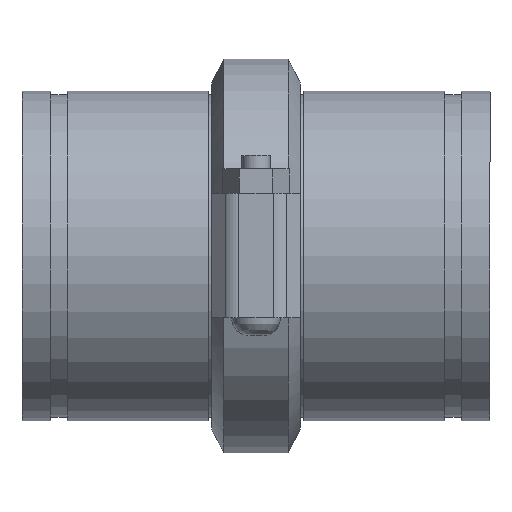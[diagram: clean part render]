
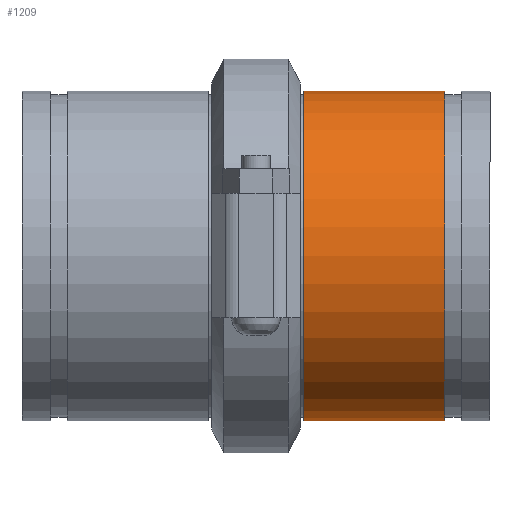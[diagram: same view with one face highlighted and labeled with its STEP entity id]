
A CAD part, top view. The second image highlights one B-rep face of the part: STEP entity #1209.
In plain terms, the highlighted cylindrical face has radius 109.537 mm (diameter 219.075 mm), a full revolution.
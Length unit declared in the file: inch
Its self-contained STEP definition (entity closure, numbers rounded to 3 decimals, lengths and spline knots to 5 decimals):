
#48=LINE('',#1920,#135);
#135=VECTOR('',#1561,4.3125);
#222=CYLINDRICAL_SURFACE('',#1386,4.3125);
#267=FACE_OUTER_BOUND('',#340,.T.);
#340=EDGE_LOOP('',(#797,#798,#799,#800,#801,#802));
#432=CIRCLE('',#1384,4.3125);
#433=CIRCLE('',#1385,4.3125);
#434=CIRCLE('',#1387,4.3125);
#435=CIRCLE('',#1388,4.3125);
#500=VERTEX_POINT('',#1911);
#501=VERTEX_POINT('',#1912);
#502=VERTEX_POINT('',#1916);
#503=VERTEX_POINT('',#1917);
#617=EDGE_CURVE('',#500,#501,#432,.T.);
#618=EDGE_CURVE('',#501,#500,#433,.T.);
#619=EDGE_CURVE('',#502,#503,#434,.T.);
#620=EDGE_CURVE('',#503,#502,#435,.T.);
#621=EDGE_CURVE('',#503,#501,#48,.T.);
#797=ORIENTED_EDGE('',*,*,#619,.F.);
#798=ORIENTED_EDGE('',*,*,#620,.F.);
#799=ORIENTED_EDGE('',*,*,#621,.T.);
#800=ORIENTED_EDGE('',*,*,#618,.T.);
#801=ORIENTED_EDGE('',*,*,#617,.T.);
#802=ORIENTED_EDGE('',*,*,#621,.F.);
#1209=ADVANCED_FACE('',(#267),#222,.T.);
#1384=AXIS2_PLACEMENT_3D('',#1913,#1551,#1552);
#1385=AXIS2_PLACEMENT_3D('',#1914,#1553,#1554);
#1386=AXIS2_PLACEMENT_3D('',#1915,#1555,#1556);
#1387=AXIS2_PLACEMENT_3D('',#1918,#1557,#1558);
#1388=AXIS2_PLACEMENT_3D('',#1919,#1559,#1560);
#1551=DIRECTION('center_axis',(-1.,0.,0.));
#1552=DIRECTION('ref_axis',(0.,0.,1.));
#1553=DIRECTION('center_axis',(-1.,0.,0.));
#1554=DIRECTION('ref_axis',(0.,0.,1.));
#1555=DIRECTION('center_axis',(-1.,0.,0.));
#1556=DIRECTION('ref_axis',(0.,1.,0.));
#1557=DIRECTION('center_axis',(-1.,0.,0.));
#1558=DIRECTION('ref_axis',(0.,0.,1.));
#1559=DIRECTION('center_axis',(-1.,0.,0.));
#1560=DIRECTION('ref_axis',(0.,0.,1.));
#1561=DIRECTION('',(1.,0.,0.));
#1911=CARTESIAN_POINT('',(1.842,4.3125,0.));
#1912=CARTESIAN_POINT('',(1.842,-4.3125,0.));
#1913=CARTESIAN_POINT('Origin',(1.842,0.,0.));
#1914=CARTESIAN_POINT('Origin',(1.842,0.,0.));
#1915=CARTESIAN_POINT('Origin',(0.,0.,
0.));
#1916=CARTESIAN_POINT('',(-1.842,4.3125,0.));
#1917=CARTESIAN_POINT('',(-1.842,-4.3125,0.));
#1918=CARTESIAN_POINT('Origin',(-1.842,0.,0.));
#1919=CARTESIAN_POINT('Origin',(-1.842,0.,0.));
#1920=CARTESIAN_POINT('',(0.,-4.3125,0.));
